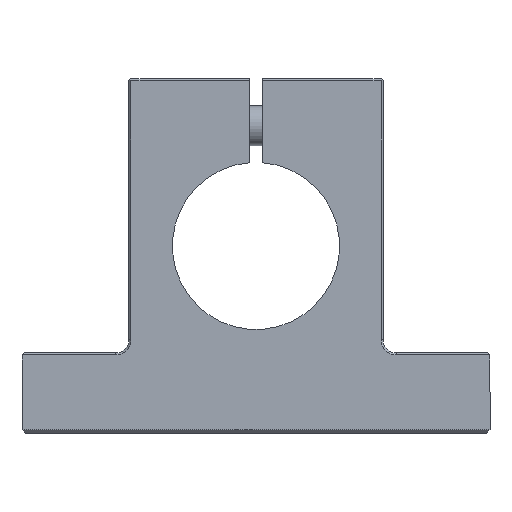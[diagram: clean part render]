
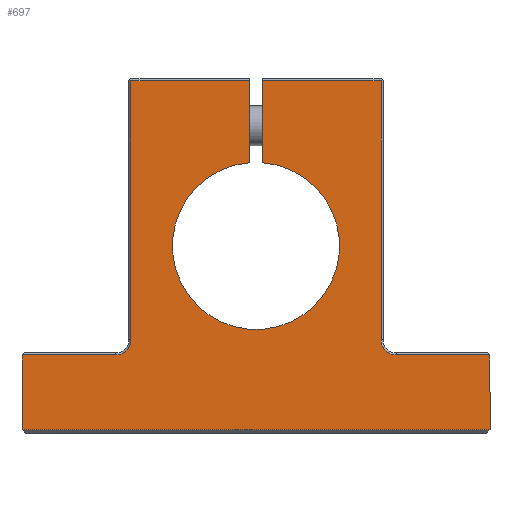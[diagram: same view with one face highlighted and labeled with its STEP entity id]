
A CAD part, left-side view. The second image highlights one B-rep face of the part: STEP entity #697.
In plain terms, the highlighted planar face has unit normal (-1, 0, 0).
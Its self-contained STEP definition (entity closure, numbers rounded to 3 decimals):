
#441=CARTESIAN_POINT('',(0.0,-35.,-27.5));
#442=VERTEX_POINT('',#441);
#443=CARTESIAN_POINT('',(0.0,35.,-27.5));
#444=VERTEX_POINT('',#443);
#445=CARTESIAN_POINT('',(0.0,-35.,-27.5));
#446=DIRECTION('',(0.0,1.0,0.0));
#447=VECTOR('',#446,70.);
#448=LINE('',#445,#447);
#449=EDGE_CURVE('',#442,#444,#448,.T.);
#566=CARTESIAN_POINT('',(0.0,35.0,-16.3));
#567=VERTEX_POINT('',#566);
#568=CARTESIAN_POINT('',(0.0,35.,-27.5));
#569=DIRECTION('',(0.0,0.0,1.0));
#570=VECTOR('',#569,11.2);
#571=LINE('',#568,#570);
#572=EDGE_CURVE('',#444,#567,#571,.T.);
#591=CARTESIAN_POINT('',(0.0,0.,-3.462));
#592=DIRECTION('',(1.0,0.0,0.0));
#593=DIRECTION('',(0.0,0.0,-1.0));
#594=AXIS2_PLACEMENT_3D('',#591,#592,#593);
#595=PLANE('',#594);
#596=ORIENTED_EDGE('',*,*,#449,.F.);
#597=CARTESIAN_POINT('',(0.0,-35.0,-16.3));
#598=VERTEX_POINT('',#597);
#599=CARTESIAN_POINT('',(0.0,-35.0,-16.3));
#600=DIRECTION('',(0.0,0.0,-1.0));
#601=VECTOR('',#600,11.2);
#602=LINE('',#599,#601);
#603=EDGE_CURVE('',#598,#442,#602,.T.);
#604=ORIENTED_EDGE('',*,*,#603,.F.);
#605=CARTESIAN_POINT('',(0.0,-21.,-16.3));
#606=VERTEX_POINT('',#605);
#607=CARTESIAN_POINT('',(0.0,-21.,-16.3));
#608=DIRECTION('',(0.0,-1.0,0.0));
#609=VECTOR('',#608,14.);
#610=LINE('',#607,#609);
#611=EDGE_CURVE('',#606,#598,#610,.T.);
#612=ORIENTED_EDGE('',*,*,#611,.F.);
#613=CARTESIAN_POINT('',(0.0,-18.7,-14.));
#614=VERTEX_POINT('',#613);
#615=CARTESIAN_POINT('',(0.0,-21.,-14.));
#616=DIRECTION('',(-1.,0.0,0.0));
#617=DIRECTION('',(0.0,0.707,-0.707));
#618=AXIS2_PLACEMENT_3D('',#615,#616,#617);
#619=CIRCLE('',#618,2.3);
#620=EDGE_CURVE('',#614,#606,#619,.T.);
#621=ORIENTED_EDGE('',*,*,#620,.F.);
#622=CARTESIAN_POINT('',(0.0,-18.7,24.7));
#623=VERTEX_POINT('',#622);
#624=CARTESIAN_POINT('',(0.0,-18.7,24.7));
#625=DIRECTION('',(0.0,0.0,-1.0));
#626=VECTOR('',#625,38.7);
#627=LINE('',#624,#626);
#628=EDGE_CURVE('',#623,#614,#627,.T.);
#629=ORIENTED_EDGE('',*,*,#628,.F.);
#630=CARTESIAN_POINT('',(0.0,-1.,24.7));
#631=VERTEX_POINT('',#630);
#632=CARTESIAN_POINT('',(0.0,-1.,24.7));
#633=DIRECTION('',(0.0,-1.0,0.0));
#634=VECTOR('',#633,17.7);
#635=LINE('',#632,#634);
#636=EDGE_CURVE('',#631,#623,#635,.T.);
#637=ORIENTED_EDGE('',*,*,#636,.F.);
#638=CARTESIAN_POINT('',(0.0,-1.,12.46));
#639=VERTEX_POINT('',#638);
#640=CARTESIAN_POINT('',(0.0,-1.,12.46));
#641=DIRECTION('',(0.0,0.0,1.0));
#642=VECTOR('',#641,12.24);
#643=LINE('',#640,#642);
#644=EDGE_CURVE('',#639,#631,#643,.T.);
#645=ORIENTED_EDGE('',*,*,#644,.F.);
#646=CARTESIAN_POINT('',(0.0,1.,12.46));
#647=VERTEX_POINT('',#646);
#648=CARTESIAN_POINT('',(0.0,0.0,0.0));
#649=DIRECTION('',(-1.0,0.0,0.0));
#650=DIRECTION('',(0.0,-1.0,0.0));
#651=AXIS2_PLACEMENT_3D('',#648,#649,#650);
#652=CIRCLE('',#651,12.5);
#653=EDGE_CURVE('',#647,#639,#652,.T.);
#654=ORIENTED_EDGE('',*,*,#653,.F.);
#655=CARTESIAN_POINT('',(0.0,1.,24.7));
#656=VERTEX_POINT('',#655);
#657=CARTESIAN_POINT('',(0.0,1.,24.7));
#658=DIRECTION('',(0.0,0.0,-1.0));
#659=VECTOR('',#658,12.24);
#660=LINE('',#657,#659);
#661=EDGE_CURVE('',#656,#647,#660,.T.);
#662=ORIENTED_EDGE('',*,*,#661,.F.);
#663=CARTESIAN_POINT('',(0.0,18.7,24.7));
#664=VERTEX_POINT('',#663);
#665=CARTESIAN_POINT('',(0.0,18.7,24.7));
#666=DIRECTION('',(0.0,-1.0,0.0));
#667=VECTOR('',#666,17.7);
#668=LINE('',#665,#667);
#669=EDGE_CURVE('',#664,#656,#668,.T.);
#670=ORIENTED_EDGE('',*,*,#669,.F.);
#671=CARTESIAN_POINT('',(0.0,18.7,-14.));
#672=VERTEX_POINT('',#671);
#673=CARTESIAN_POINT('',(0.0,18.7,-14.));
#674=DIRECTION('',(0.0,0.0,1.0));
#675=VECTOR('',#674,38.7);
#676=LINE('',#673,#675);
#677=EDGE_CURVE('',#672,#664,#676,.T.);
#678=ORIENTED_EDGE('',*,*,#677,.F.);
#679=CARTESIAN_POINT('',(0.0,21.0,-16.3));
#680=VERTEX_POINT('',#679);
#681=CARTESIAN_POINT('',(0.0,21.0,-14.));
#682=DIRECTION('',(-1.,0.0,0.0));
#683=DIRECTION('',(0.0,-0.707,-0.707));
#684=AXIS2_PLACEMENT_3D('',#681,#682,#683);
#685=CIRCLE('',#684,2.3);
#686=EDGE_CURVE('',#680,#672,#685,.T.);
#687=ORIENTED_EDGE('',*,*,#686,.F.);
#688=CARTESIAN_POINT('',(0.0,35.0,-16.3));
#689=DIRECTION('',(0.0,-1.0,0.0));
#690=VECTOR('',#689,14.0);
#691=LINE('',#688,#690);
#692=EDGE_CURVE('',#567,#680,#691,.T.);
#693=ORIENTED_EDGE('',*,*,#692,.F.);
#694=ORIENTED_EDGE('',*,*,#572,.F.);
#695=EDGE_LOOP('',(#596,#604,#612,#621,#629,#637,#645,#654,#662,#670,#678,#687,#693,#694));
#696=FACE_OUTER_BOUND('',#695,.T.);
#697=ADVANCED_FACE('',(#696),#595,.F.);
